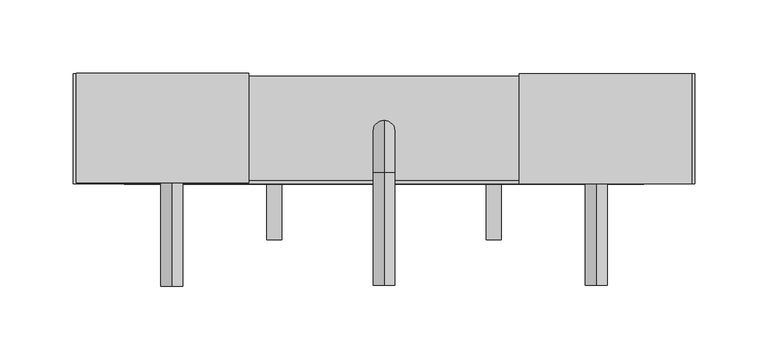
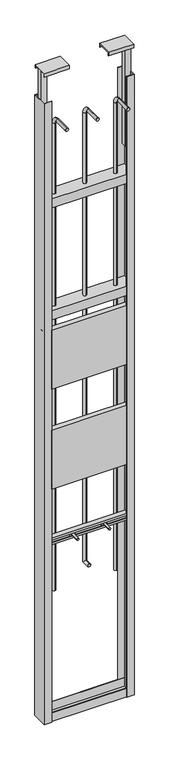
"""IFC4 building model written with IfcOpenShell, lengths in millimetres: flow terminal geometry, NLRS_74_PF_TLB_ASM WST Type B spiegel-planchet_Geberit : ASM WST Type B."""

from ifc_helpers import new_model, si_unit, point, frame, origin, place, context, project, spatial, polyline, circle_curve, ellipse_curve, trimmed, outline, extrude, faceted_brep, source, transform, mapped, element, save
from ifc_brep_helpers import plane_surface, cylinder_surface, revolved_surface, advanced_brep


def flow_terminal_0f4a6ba9(model_context):
    return source(origin(), model_context, "Body", "SolidModel", [
        extrude(outline(polyline([(1031.0814924, 2.0), (997.0814924, 2.0), (997.0814924, 0.0), (642.0814924, 0.0), (642.0814924, 2.0), (608.0814924, 2.0), (608.0814924, 24.0), (1031.0814924, 24.0), (1031.0814924, 2.0)])), frame((0.0, 0.0, 1612.5), z_axis=(0.0, 0.0, 1.0), x_axis=(1.0, 0.0, 0.0)), (0.0, 0.0, 1.0), 295.0),
        extrude(outline(polyline([(1031.0814924, 2.0), (997.0814924, 2.0), (997.0814924, 0.0), (642.0814924, 0.0), (642.0814924, 2.0), (608.0814924, 2.0), (608.0814924, 24.0), (1031.0814924, 24.0), (1031.0814924, 2.0)])), frame((0.0, 0.0, 1112.5), z_axis=(0.0, 0.0, 1.0), x_axis=(1.0, 0.0, 0.0)), (0.0, 0.0, 1.0), 295.0),
        extrude(outline(polyline([(2.5, 2516.0), (2.5, 2560.0), (73.5, 2560.0), (73.5, 2516.0), (71.5, 2516.0), (71.5, 2558.0), (4.5, 2558.0), (4.5, 2516.0), (2.5, 2516.0)])), frame((612.0814924, 0.0, 0.0), z_axis=(1.0, 0.0, 0.0), x_axis=(0.0, 1.0, 0.0)), (0.0, 0.0, 1.0), 415.0),
        extrude(outline(polyline([(2.5, 1956.0), (2.5, 2000.0), (73.5, 2000.0), (73.5, 1956.0), (71.5, 1956.0), (71.5, 1998.0), (4.5, 1998.0), (4.5, 1956.0), (2.5, 1956.0)])), frame((612.0814924, 0.0, 0.0), z_axis=(1.0, 0.0, 0.0), x_axis=(0.0, 1.0, 0.0)), (0.0, 0.0, 1.0), 415.0),
        extrude(outline(polyline([(997.0814924, 0.0), (997.0814924, 2.0), (1030.0814924, 2.0), (1030.0814924, 73.0), (997.0814924, 73.0), (997.0814924, 75.0), (1032.0814924, 75.0), (1032.0814924, 0.0), (997.0814924, 0.0)])), frame((0.0, 0.0, -50.0), z_axis=(0.0, 0.0, 1.0), x_axis=(1.0, 0.0, 0.0)), (0.0, 0.0, 1.0), 3100.0),
        extrude(outline(polyline([(642.0814924, 0.0), (607.0814924, 0.0), (607.0814924, 75.0), (642.0814924, 75.0), (642.0814924, 73.0), (609.0814924, 73.0), (609.0814924, 2.0), (642.0814924, 2.0), (642.0814924, 0.0)])), frame((0.0, 0.0, -50.0), z_axis=(0.0, 0.0, 1.0), x_axis=(1.0, 0.0, 0.0)), (0.0, 0.0, 1.0), 3100.0),
        extrude(outline(polyline([(2.0, -6.0), (4.0, -6.0), (4.0, -48.0), (71.0, -48.0), (71.0, -6.0), (73.0, -6.0), (73.0, -50.0), (2.0, -50.0), (2.0, -6.0)])), frame((612.0814924, 0.0, 0.0), z_axis=(1.0, 0.0, 0.0), x_axis=(0.0, 1.0, 0.0)), (0.0, 0.0, 1.0), 415.0),
        faceted_brep([(912.0814924, 0.0, 3183.0), (912.0814924, 0.0, 3200.0), (912.0814924, 75.0, 3200.0), (912.0814924, 75.0, 3183.0), (912.0814924, 73.0, 3183.0), (912.0814924, 73.0, 3198.0), (912.0814924, 2.0, 3198.0), (912.0814924, 2.0, 3183.0), (1030.0814924, 0.0, 3183.0), (1030.0814924, 2.0, 3183.0), (1030.0814924, 2.0, 3198.0), (1030.0814924, 25.0, 3198.0), (1030.0814924, 25.0, 2683.0), (1030.0814924, 50.0, 2683.0), (1030.0814924, 50.0, 3198.0), (1030.0814924, 73.0, 3198.0), (1030.0814924, 73.0, 3183.0), (1030.0814924, 75.0, 3183.0), (1030.0814924, 75.0, 3200.0), (1030.0814924, 0.0, 3200.0), (1005.0814924, 50.0, 3198.0), (1005.0814924, 25.0, 3198.0), (1005.0814924, 25.0, 2683.0), (1005.0814924, 50.0, 2683.0)], [[[0, 1, 2, 3, 4, 5, 6, 7]], [[8, 9, 10, 11, 12, 13, 14, 15, 16, 17, 18, 19]], [[0, 7, 9, 8]], [[7, 6, 10, 9]], [[6, 5, 15, 14, 20, 21, 11, 10]], [[5, 4, 16, 15]], [[4, 3, 17, 16]], [[3, 2, 18, 17]], [[2, 1, 19, 18]], [[1, 0, 8, 19]], [[22, 23, 13, 12]], [[22, 12, 11, 21]], [[13, 23, 20, 14]], [[23, 22, 21, 20]]]),
        faceted_brep([(727.0814924, 0.5, 3183.0), (727.0814924, 2.5, 3183.0), (727.0814924, 2.5, 3198.0), (727.0814924, 73.5, 3198.0), (727.0814924, 73.5, 3183.0), (727.0814924, 75.5, 3183.0), (727.0814924, 75.5, 3200.0), (727.0814924, 0.5, 3200.0), (609.0814924, 0.5, 3183.0), (609.0814924, 0.5, 3200.0), (609.0814924, 75.5, 3200.0), (609.0814924, 75.5, 3183.0), (609.0814924, 73.5, 3183.0), (609.0814924, 73.5, 3198.0), (609.0814924, 50.5, 3198.0), (609.0814924, 50.5, 2683.0), (609.0814924, 25.5, 2683.0), (609.0814924, 25.5, 3198.0), (609.0814924, 2.5, 3198.0), (609.0814924, 2.5, 3183.0), (634.0814924, 25.5, 3198.0), (634.0814924, 50.5, 3198.0), (634.0814924, 25.5, 2683.0), (634.0814924, 50.5, 2683.0)], [[[0, 1, 2, 3, 4, 5, 6, 7]], [[8, 9, 10, 11, 12, 13, 14, 15, 16, 17, 18, 19]], [[0, 8, 19, 1]], [[1, 19, 18, 2]], [[2, 18, 17, 20, 21, 14, 13, 3]], [[3, 13, 12, 4]], [[4, 12, 11, 5]], [[5, 11, 10, 6]], [[6, 10, 9, 7]], [[7, 9, 8, 0]], [[22, 16, 15, 23]], [[22, 20, 17, 16]], [[15, 14, 21, 23]], [[23, 21, 20, 22]]]),
        advanced_brep(
        [(819.5814924, 0.0, 678.5), (819.5814924, 0.0, 663.5), (819.5814924, 43.1893191, 663.5), (819.5814924, 28.1893191, 678.5), (819.5814924, 28.1893191, 2912.0), (819.5814924, 43.1893191, 2912.0), (819.5814924, 7.6893191, 2947.5), (819.5814924, 7.6893191, 2932.5), (819.5814924, -69.5, 2932.5), (819.5814924, -69.5, 2947.5)],
        [
            (0, 1, circle_curve(frame((819.5814924, 0.0, 671.0), z_axis=(0.0, -1.0, 0.0), x_axis=(0.0, 0.0, -1.0)), 7.5)),
            (1, 0, circle_curve(frame((819.5814924, 0.0, 671.0), z_axis=(0.0, -1.0, 0.0), x_axis=(0.0, 0.0, -1.0)), 7.5)),
            (2, 3, ellipse_curve(frame((819.5814924, 35.6893191, 671.0), z_axis=(0.0, 0.7071067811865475, 0.7071067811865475), x_axis=(0.0, 0.7071067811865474, -0.7071067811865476)), 10.6066017, 7.5)),
            (3, 4),
            (4, 5, circle_curve(frame((819.5814924, 35.6893191, 2912.0), z_axis=(0.0, 0.0, -1.0), x_axis=(0.0, 1.0, 0.0)), 7.5)),
            (5, 2),
            (3, 2, ellipse_curve(frame((819.5814924, 35.6893191, 671.0), z_axis=(0.0, 0.7071067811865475, 0.7071067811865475), x_axis=(0.0, 0.7071067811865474, -0.7071067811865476)), 10.6066017, 7.5)),
            (5, 4, circle_curve(frame((819.5814924, 35.6893191, 2912.0), z_axis=(0.0, 0.0, -1.0), x_axis=(0.0, 1.0, 0.0)), 7.5)),
            (6, 5, circle_curve(frame((819.5814924, 7.6893191, 2912.0), z_axis=(-1.0, 0.0, 0.0), x_axis=(0.0, 1.0, 0.0)), 35.5)),
            (4, 7, circle_curve(frame((819.5814924, 7.6893191, 2912.0), z_axis=(1.0, 0.0, 0.0), x_axis=(0.0, 1.0, 0.0)), 20.5)),
            (7, 6, circle_curve(frame((819.5814924, 7.6893191, 2940.0), z_axis=(0.0, 1.0, 0.0), x_axis=(0.0, 0.0, 1.0)), 7.5)),
            (6, 7, circle_curve(frame((819.5814924, 7.6893191, 2940.0), z_axis=(0.0, 1.0, 0.0), x_axis=(0.0, 0.0, 1.0)), 7.5)),
            (8, 9, circle_curve(frame((819.5814924, -69.5, 2940.0), z_axis=(0.0, -1.0, 0.0), x_axis=(0.0, 0.0, 1.0)), 7.5)),
            (9, 8, circle_curve(frame((819.5814924, -69.5, 2940.0), z_axis=(0.0, -1.0, 0.0), x_axis=(0.0, 0.0, 1.0)), 7.5)),
            (7, 8),
            (9, 6),
            (0, 3),
            (2, 1),
        ],
        [
            plane_surface(frame((874.5814924, 0.0, 671.0), z_axis=(0.0, -1.0, 0.0), x_axis=(-1.0, 0.0, 0.0))),
            cylinder_surface(frame((819.5814924, 35.6893191, 671.0), z_axis=(0.0, 0.0, -1.0), x_axis=(0.0, 1.0, 0.0)), 7.5),
            revolved_surface(trimmed(ellipse_curve(frame((819.5814924, 35.6893191, 2912.0), z_axis=(0.0, 0.0, -1.0), x_axis=(0.0, 1.0, 0.0)), 7.5, 7.5), [point((819.5814924, 28.1893191, 2912.0))], [point((819.5814924, 43.1893191, 2912.0))], True, "CARTESIAN"), (874.5814924, 7.6893191, 2912.0), (1.0, 0.0, 0.0)),
            revolved_surface(trimmed(ellipse_curve(frame((819.5814924, 35.6893191, 2912.0), z_axis=(0.0, 0.0, -1.0), x_axis=(0.0, 1.0, 0.0)), 7.5, 7.5), [point((819.5814924, 43.1893191, 2912.0))], [point((819.5814924, 28.1893191, 2912.0))], True, "CARTESIAN"), (874.5814924, 7.6893191, 2912.0), (1.0, 0.0, 0.0)),
            plane_surface(frame((874.5814924, -69.5, 2940.0), z_axis=(0.0, -1.0, 0.0), x_axis=(-1.0, 0.0, 0.0))),
            cylinder_surface(frame((819.5814924, 7.6893191, 2940.0), z_axis=(0.0, 1.0, 0.0), x_axis=(0.0, 0.0, 1.0)), 7.5),
            cylinder_surface(frame((819.5814924, 0.0, 671.0), z_axis=(0.0, -1.0, 0.0), x_axis=(0.0, 0.0, -1.0)), 7.5),
        ],
        [
            (0, [[1, 2]]),
            (1, [[3, 4, 5, 6]]),
            (1, [[7, -6, 8, -4]]),
            (2, [[9, -5, 10, 11]]),
            (3, [[-10, -8, -9, 12]]),
            (4, [[13, 14]]),
            (5, [[-11, 15, -14, 16]]),
            (5, [[-12, -16, -13, -15]]),
            (6, [[-1, 17, -3, 18]]),
            (6, [[-2, -18, -7, -17]]),
        ],
    ),
        advanced_brep(
        [(964.5814924, 28.1893191, 579.0), (964.5814924, 43.1893191, 579.0), (964.5814924, 28.1893191, 2912.0), (964.5814924, 43.1893191, 2912.0), (964.5814924, 7.6893191, 2947.5), (964.5814924, 7.6893191, 2932.5), (964.5814924, -69.5, 2932.5), (964.5814924, -69.5, 2947.5)],
        [
            (0, 1, circle_curve(frame((964.5814924, 35.6893191, 579.0), z_axis=(0.0, 0.0, -1.0), x_axis=(0.0, 1.0, 0.0)), 7.5)),
            (1, 0, circle_curve(frame((964.5814924, 35.6893191, 579.0), z_axis=(0.0, 0.0, -1.0), x_axis=(0.0, 1.0, 0.0)), 7.5)),
            (0, 2),
            (2, 3, circle_curve(frame((964.5814924, 35.6893191, 2912.0), z_axis=(0.0, 0.0, -1.0), x_axis=(0.0, 1.0, 0.0)), 7.5)),
            (3, 1),
            (3, 2, circle_curve(frame((964.5814924, 35.6893191, 2912.0), z_axis=(0.0, 0.0, -1.0), x_axis=(0.0, 1.0, 0.0)), 7.5)),
            (4, 3, circle_curve(frame((964.5814924, 7.6893191, 2912.0), z_axis=(-1.0, 0.0, 0.0), x_axis=(0.0, 1.0, 0.0)), 35.5)),
            (2, 5, circle_curve(frame((964.5814924, 7.6893191, 2912.0), z_axis=(1.0, 0.0, 0.0), x_axis=(0.0, 1.0, 0.0)), 20.5)),
            (5, 4, circle_curve(frame((964.5814924, 7.6893191, 2940.0), z_axis=(0.0, 1.0, 0.0), x_axis=(0.0, 0.0, 1.0)), 7.5)),
            (4, 5, circle_curve(frame((964.5814924, 7.6893191, 2940.0), z_axis=(0.0, 1.0, 0.0), x_axis=(0.0, 0.0, 1.0)), 7.5)),
            (6, 7, circle_curve(frame((964.5814924, -69.5, 2940.0), z_axis=(0.0, -1.0, 0.0), x_axis=(0.0, 0.0, 1.0)), 7.5)),
            (7, 6, circle_curve(frame((964.5814924, -69.5, 2940.0), z_axis=(0.0, -1.0, 0.0), x_axis=(0.0, 0.0, 1.0)), 7.5)),
            (5, 6),
            (7, 4),
        ],
        [
            plane_surface(frame((964.5814924, 35.6893191, 579.0), z_axis=(0.0, 0.0, -1.0), x_axis=(-1.0, 0.0, 0.0))),
            cylinder_surface(frame((964.5814924, 35.6893191, 579.0), z_axis=(0.0, 0.0, -1.0), x_axis=(0.0, 1.0, 0.0)), 7.5),
            revolved_surface(trimmed(ellipse_curve(frame((964.5814924, 35.6893191, 2912.0), z_axis=(0.0, 0.0, -1.0), x_axis=(0.0, 1.0, 0.0)), 7.5, 7.5), [point((964.5814924, 28.1893191, 2912.0))], [point((964.5814924, 43.1893191, 2912.0))], True, "CARTESIAN"), (964.5814924, 7.6893191, 2912.0), (1.0, 0.0, 0.0)),
            revolved_surface(trimmed(ellipse_curve(frame((964.5814924, 35.6893191, 2912.0), z_axis=(0.0, 0.0, -1.0), x_axis=(0.0, 1.0, 0.0)), 7.5, 7.5), [point((964.5814924, 43.1893191, 2912.0))], [point((964.5814924, 28.1893191, 2912.0))], True, "CARTESIAN"), (964.5814924, 7.6893191, 2912.0), (1.0, 0.0, 0.0)),
            plane_surface(frame((964.5814924, -69.5, 2940.0), z_axis=(0.0, -1.0, 0.0), x_axis=(-1.0, 0.0, 0.0))),
            cylinder_surface(frame((964.5814924, 7.6893191, 2940.0), z_axis=(0.0, 1.0, 0.0), x_axis=(0.0, 0.0, 1.0)), 7.5),
        ],
        [
            (0, [[1, 2]]),
            (1, [[-1, 3, 4, 5]]),
            (1, [[-2, -5, 6, -3]]),
            (2, [[7, -4, 8, 9]]),
            (3, [[-8, -6, -7, 10]]),
            (4, [[11, 12]]),
            (5, [[-9, 13, -12, 14]]),
            (5, [[-10, -14, -11, -13]]),
        ],
    ),
        advanced_brep(
        [(674.5814924, 28.1893191, 579.0), (674.5814924, 43.1893191, 579.0), (674.5814924, -70.0, 2932.5), (674.5814924, -70.0, 2947.5), (674.5814924, 28.1893191, 2912.0), (674.5814924, 43.1893191, 2912.0), (674.5814924, 7.6893191, 2947.5), (674.5814924, 7.6893191, 2932.5)],
        [
            (0, 1, circle_curve(frame((674.5814924, 35.6893191, 579.0), z_axis=(0.0, 0.0, -1.0), x_axis=(0.0, 1.0, 0.0)), 7.5)),
            (1, 0, circle_curve(frame((674.5814924, 35.6893191, 579.0), z_axis=(0.0, 0.0, -1.0), x_axis=(0.0, 1.0, 0.0)), 7.5)),
            (2, 3, circle_curve(frame((674.5814924, -70.0, 2940.0), z_axis=(0.0, -1.0, 0.0), x_axis=(0.0, 0.0, 1.0)), 7.5)),
            (3, 2, circle_curve(frame((674.5814924, -70.0, 2940.0), z_axis=(0.0, -1.0, 0.0), x_axis=(0.0, 0.0, 1.0)), 7.5)),
            (0, 4),
            (4, 5, circle_curve(frame((674.5814924, 35.6893191, 2912.0), z_axis=(0.0, 0.0, -1.0), x_axis=(0.0, 1.0, 0.0)), 7.5)),
            (5, 1),
            (5, 4, circle_curve(frame((674.5814924, 35.6893191, 2912.0), z_axis=(0.0, 0.0, -1.0), x_axis=(0.0, 1.0, 0.0)), 7.5)),
            (6, 5, circle_curve(frame((674.5814924, 7.6893191, 2912.0), z_axis=(-1.0, 0.0, 0.0), x_axis=(0.0, 1.0, 0.0)), 35.5)),
            (4, 7, circle_curve(frame((674.5814924, 7.6893191, 2912.0), z_axis=(1.0, 0.0, 0.0), x_axis=(0.0, 1.0, 0.0)), 20.5)),
            (7, 6, circle_curve(frame((674.5814924, 7.6893191, 2940.0), z_axis=(0.0, 1.0, 0.0), x_axis=(0.0, 0.0, 1.0)), 7.5)),
            (6, 7, circle_curve(frame((674.5814924, 7.6893191, 2940.0), z_axis=(0.0, 1.0, 0.0), x_axis=(0.0, 0.0, 1.0)), 7.5)),
            (7, 2),
            (3, 6),
        ],
        [
            plane_surface(frame((674.5814924, 35.6893191, 579.0), z_axis=(0.0, 0.0, -1.0), x_axis=(-1.0, 0.0, 0.0))),
            plane_surface(frame((674.5814924, -70.0, 2940.0), z_axis=(0.0, -1.0, 0.0), x_axis=(-1.0, 0.0, 0.0))),
            cylinder_surface(frame((674.5814924, 35.6893191, 579.0), z_axis=(0.0, 0.0, -1.0), x_axis=(0.0, 1.0, 0.0)), 7.5),
            revolved_surface(trimmed(ellipse_curve(frame((674.5814924, 35.6893191, 2912.0), z_axis=(0.0, 0.0, -1.0), x_axis=(0.0, 1.0, 0.0)), 7.5, 7.5), [point((674.5814924, 28.1893191, 2912.0))], [point((674.5814924, 43.1893191, 2912.0))], True, "CARTESIAN"), (674.5814924, 7.6893191, 2912.0), (1.0, 0.0, 0.0)),
            revolved_surface(trimmed(ellipse_curve(frame((674.5814924, 35.6893191, 2912.0), z_axis=(0.0, 0.0, -1.0), x_axis=(0.0, 1.0, 0.0)), 7.5, 7.5), [point((674.5814924, 43.1893191, 2912.0))], [point((674.5814924, 28.1893191, 2912.0))], True, "CARTESIAN"), (674.5814924, 7.6893191, 2912.0), (1.0, 0.0, 0.0)),
            cylinder_surface(frame((674.5814924, 7.6893191, 2940.0), z_axis=(0.0, 1.0, 0.0), x_axis=(0.0, 0.0, 1.0)), 7.5),
        ],
        [
            (0, [[1, 2]]),
            (1, [[3, 4]]),
            (2, [[-1, 5, 6, 7]]),
            (2, [[-2, -7, 8, -5]]),
            (3, [[9, -6, 10, 11]]),
            (4, [[-10, -8, -9, 12]]),
            (5, [[-11, 13, -4, 14]]),
            (5, [[-12, -14, -3, -13]]),
        ],
    ),
        advanced_brep(
        [(739.5750369, -38.0, 850.0), (749.5750369, -38.0, 850.0), (739.5750369, 12.0, 850.0), (749.5750369, 12.0, 850.0), (756.5814924, 9.0, 862.0061365), (756.5814924, 9.0, 837.9938635), (732.5814924, 9.0, 837.9938635), (732.5814924, 9.0, 862.0061365), (739.5750369, 9.0, 850.0), (749.5750369, 9.0, 850.0), (756.5814924, 6.0, 862.0061365), (732.5814924, 6.0, 862.0061365), (732.5814924, 6.0, 837.9938635), (756.5814924, 6.0, 837.9938635), (749.5750369, 6.0, 850.0), (739.5750369, 6.0, 850.0)],
        [
            (0, 1, circle_curve(frame((744.5750369, -38.0, 850.0), z_axis=(0.0, -1.0, 0.0), x_axis=(1.0, 0.0, 0.0)), 5.0)),
            (1, 0, circle_curve(frame((744.5750369, -38.0, 850.0), z_axis=(0.0, -1.0, 0.0), x_axis=(1.0, 0.0, 0.0)), 5.0)),
            (2, 3, circle_curve(frame((744.5750369, 12.0, 850.0), z_axis=(0.0, 1.0, 0.0), x_axis=(1.0, 0.0, 0.0)), 5.0)),
            (3, 2, circle_curve(frame((744.5750369, 12.0, 850.0), z_axis=(0.0, 1.0, 0.0), x_axis=(1.0, 0.0, 0.0)), 5.0)),
            (4, 5),
            (5, 6),
            (6, 7),
            (7, 4),
            (8, 9, circle_curve(frame((744.5750369, 9.0, 850.0), z_axis=(0.0, -1.0, 0.0), x_axis=(1.0, 0.0, 0.0)), 5.0)),
            (9, 8, circle_curve(frame((744.5750369, 9.0, 850.0), z_axis=(0.0, -1.0, 0.0), x_axis=(1.0, 0.0, 0.0)), 5.0)),
            (10, 11),
            (11, 12),
            (12, 13),
            (13, 10),
            (14, 15, circle_curve(frame((744.5750369, 6.0, 850.0), z_axis=(0.0, 1.0, 0.0), x_axis=(1.0, 0.0, 0.0)), 5.0)),
            (15, 14, circle_curve(frame((744.5750369, 6.0, 850.0), z_axis=(0.0, 1.0, 0.0), x_axis=(1.0, 0.0, 0.0)), 5.0)),
            (7, 11),
            (10, 4),
            (6, 12),
            (5, 13),
            (0, 15),
            (14, 1),
            (3, 9),
            (8, 2),
        ],
        [
            plane_surface(frame((749.5750369, -38.0, 850.0), z_axis=(0.0, -1.0, 0.0), x_axis=(0.0, 0.0, 1.0))),
            plane_surface(frame((749.5750369, 12.0, 850.0), z_axis=(0.0, 1.0, 0.0), x_axis=(0.0, 0.0, -1.0))),
            plane_surface(frame((732.5814924, 9.0, 862.0061365), z_axis=(0.0, 1.0, 0.0), x_axis=(1.0, 0.0, 0.0))),
            plane_surface(frame((732.5814924, 6.0, 862.0061365), z_axis=(0.0, -1.0, 0.0), x_axis=(-1.0, 0.0, 0.0))),
            plane_surface(frame((756.5814924, 6.0, 862.0061365), z_axis=(0.0, 0.0, 1.0), x_axis=(0.0, 1.0, 0.0))),
            plane_surface(frame((732.5814924, 6.0, 862.0061365), z_axis=(-1.0, 0.0, 0.0), x_axis=(0.0, 1.0, 0.0))),
            plane_surface(frame((732.5814924, 6.0, 837.9938635), z_axis=(0.0, 0.0, -1.0), x_axis=(0.0, 1.0, 0.0))),
            plane_surface(frame((756.5814924, 6.0, 837.9938635), z_axis=(1.0, 0.0, 0.0), x_axis=(0.0, 1.0, 0.0))),
            cylinder_surface(frame((744.5750369, 12.0, 850.0), z_axis=(0.0, -1.0, 0.0), x_axis=(1.0, 0.0, 0.0)), 5.0),
        ],
        [
            (0, [[1, 2]]),
            (1, [[3, 4]]),
            (2, [[5, 6, 7, 8], [9, 10]]),
            (3, [[11, 12, 13, 14], [15, 16]]),
            (4, [[-8, 17, -11, 18]]),
            (5, [[-7, 19, -12, -17]]),
            (6, [[-6, 20, -13, -19]]),
            (7, [[-5, -18, -14, -20]]),
            (8, [[-1, 21, -15, 22]]),
            (8, [[-4, 23, -9, 24]]),
            (8, [[-2, -22, -16, -21]]),
            (8, [[-3, -24, -10, -23]]),
        ],
    ),
        advanced_brep(
        [(906.5814924, 9.0, 862.0061365), (906.5814924, 9.0, 837.9938635), (882.5814924, 9.0, 837.9938635), (882.5814924, 9.0, 862.0061365), (889.5814924, 9.0, 850.0), (899.5814924, 9.0, 850.0), (906.5814924, 6.0, 862.0061365), (882.5814924, 6.0, 862.0061365), (882.5814924, 6.0, 837.9938635), (906.5814924, 6.0, 837.9938635), (899.5814924, 6.0, 850.0), (889.5814924, 6.0, 850.0), (889.5814924, -38.0, 850.0), (899.5814924, -38.0, 850.0), (889.5814924, 12.0, 850.0), (899.5814924, 12.0, 850.0)],
        [
            (0, 1),
            (1, 2),
            (2, 3),
            (3, 0),
            (4, 5, circle_curve(frame((894.5814924, 9.0, 850.0), z_axis=(0.0, -1.0, 0.0), x_axis=(1.0, 0.0, 0.0)), 5.0)),
            (5, 4, circle_curve(frame((894.5814924, 9.0, 850.0), z_axis=(0.0, -1.0, 0.0), x_axis=(1.0, 0.0, 0.0)), 5.0)),
            (6, 7),
            (7, 8),
            (8, 9),
            (9, 6),
            (10, 11, circle_curve(frame((894.5814924, 6.0, 850.0), z_axis=(0.0, 1.0, 0.0), x_axis=(1.0, 0.0, 0.0)), 5.0)),
            (11, 10, circle_curve(frame((894.5814924, 6.0, 850.0), z_axis=(0.0, 1.0, 0.0), x_axis=(1.0, 0.0, 0.0)), 5.0)),
            (3, 7),
            (6, 0),
            (2, 8),
            (1, 9),
            (12, 13, circle_curve(frame((894.5814924, -38.0, 850.0), z_axis=(0.0, -1.0, 0.0), x_axis=(1.0, 0.0, 0.0)), 5.0)),
            (13, 12, circle_curve(frame((894.5814924, -38.0, 850.0), z_axis=(0.0, -1.0, 0.0), x_axis=(1.0, 0.0, 0.0)), 5.0)),
            (14, 15, circle_curve(frame((894.5814924, 12.0, 850.0), z_axis=(0.0, 1.0, 0.0), x_axis=(1.0, 0.0, 0.0)), 5.0)),
            (15, 14, circle_curve(frame((894.5814924, 12.0, 850.0), z_axis=(0.0, 1.0, 0.0), x_axis=(1.0, 0.0, 0.0)), 5.0)),
            (12, 11),
            (10, 13),
            (15, 5),
            (4, 14),
        ],
        [
            plane_surface(frame((732.5814924, 9.0, 862.0061365), z_axis=(0.0, 1.0, 0.0), x_axis=(1.0, 0.0, 0.0))),
            plane_surface(frame((732.5814924, 6.0, 862.0061365), z_axis=(0.0, -1.0, 0.0), x_axis=(-1.0, 0.0, 0.0))),
            plane_surface(frame((906.5814924, 6.0, 862.0061365), z_axis=(0.0, 0.0, 1.0), x_axis=(0.0, 1.0, 0.0))),
            plane_surface(frame((882.5814924, 6.0, 862.0061365), z_axis=(-1.0, 0.0, 0.0), x_axis=(0.0, 1.0, 0.0))),
            plane_surface(frame((882.5814924, 6.0, 837.9938635), z_axis=(0.0, 0.0, -1.0), x_axis=(0.0, 1.0, 0.0))),
            plane_surface(frame((906.5814924, 6.0, 837.9938635), z_axis=(1.0, 0.0, 0.0), x_axis=(0.0, 1.0, 0.0))),
            plane_surface(frame((899.5814924, -38.0, 850.0), z_axis=(0.0, -1.0, 0.0), x_axis=(0.0, 0.0, 1.0))),
            plane_surface(frame((899.5814924, 12.0, 850.0), z_axis=(0.0, 1.0, 0.0), x_axis=(0.0, 0.0, -1.0))),
            cylinder_surface(frame((894.5814924, 12.0, 850.0), z_axis=(0.0, -1.0, 0.0), x_axis=(1.0, 0.0, 0.0)), 5.0),
        ],
        [
            (0, [[1, 2, 3, 4], [5, 6]]),
            (1, [[7, 8, 9, 10], [11, 12]]),
            (2, [[-4, 13, -7, 14]]),
            (3, [[-3, 15, -8, -13]]),
            (4, [[-2, 16, -9, -15]]),
            (5, [[-1, -14, -10, -16]]),
            (6, [[17, 18]]),
            (7, [[19, 20]]),
            (8, [[-17, 21, -11, 22]]),
            (8, [[-20, 23, -5, 24]]),
            (8, [[-18, -22, -12, -21]]),
            (8, [[-19, -24, -6, -23]]),
        ],
    ),
        extrude(outline(polyline([(27.9787209, 865.5037298), (27.9787209, 834.4725601), (2.5, 834.4725601), (2.5, 844.4725601), (4.4828185, 844.4725601), (4.4828185, 836.5435697), (26.0224407, 836.5435697), (26.0224407, 863.5504833), (4.4828185, 863.5504833), (4.4828185, 855.5037298), (2.5, 855.5037298), (2.5, 865.5037298), (27.9787209, 865.5037298)])), frame((609.0917509, 0.0, 0.0), z_axis=(1.0, 0.0, 0.0), x_axis=(0.0, 1.0, 0.0)), (0.0, 0.0, 1.0), 420.9897416),
    ])


if __name__ == "__main__":
    model = new_model("IFC4")
    model_context = context("Model", 3, world=origin())
    ifc_project = project(units=[si_unit("LENGTHUNIT", "METRE", prefix="MILLI")], contexts=[model_context])
    site = spatial("IfcSite", under=ifc_project)
    building = spatial("IfcBuilding", under=site)
    placement = place(None, origin())
    flow_terminal_shape = flow_terminal_0f4a6ba9(model_context)
    element("IfcFlowTerminal", 1, ObjectType="NLRS_74_PF_TLB_ASM WST Type B spiegel-planchet_Geberit : ASM WST Type B", at=placement, inside=building, context=model_context, shape_type="MappedRepresentation", body=[
        mapped(flow_terminal_shape, transform((0.0, 0.0, 0.0), x_axis=(1.0, 0.0, 0.0), y_axis=(0.0, 1.0, 0.0), z_axis=(0.0, 0.0, 1.0))),
    ])
    save(model, "model.ifc")
